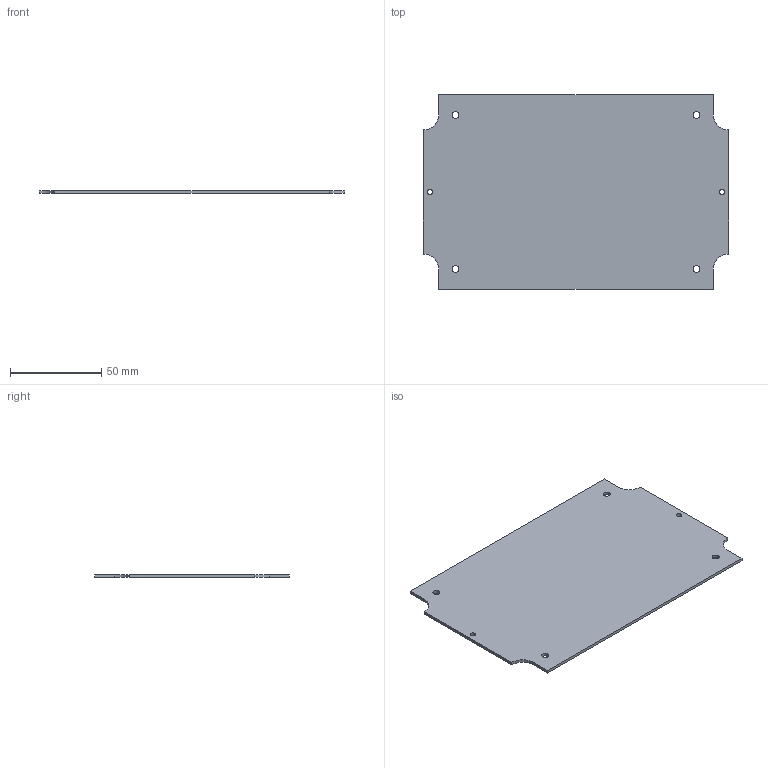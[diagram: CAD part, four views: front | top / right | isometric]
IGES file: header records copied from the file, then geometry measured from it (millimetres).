
Global section: file name: No Iges File Name specified; native system: AutoDesk Inventor R11.0; preprocessor: AutoDesk Inventor Iges Exporter R11.0; author: No Author specified; organization: No Organization specified; date: 20060713.143403; units: millimetre
Bounding box: 167.13 x 106.68 x 1.63 mm (x, y, z)
Volume: 27939.7 mm3; surface area: 35346.4 mm2
Topology: 1 solids, 1 shells, 26 faces, 72 edges, 48 vertices
Faces by surface type: revolution 16, plane 10
